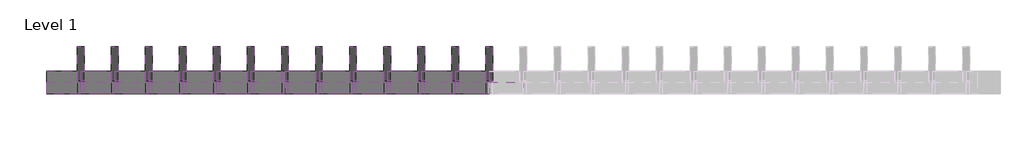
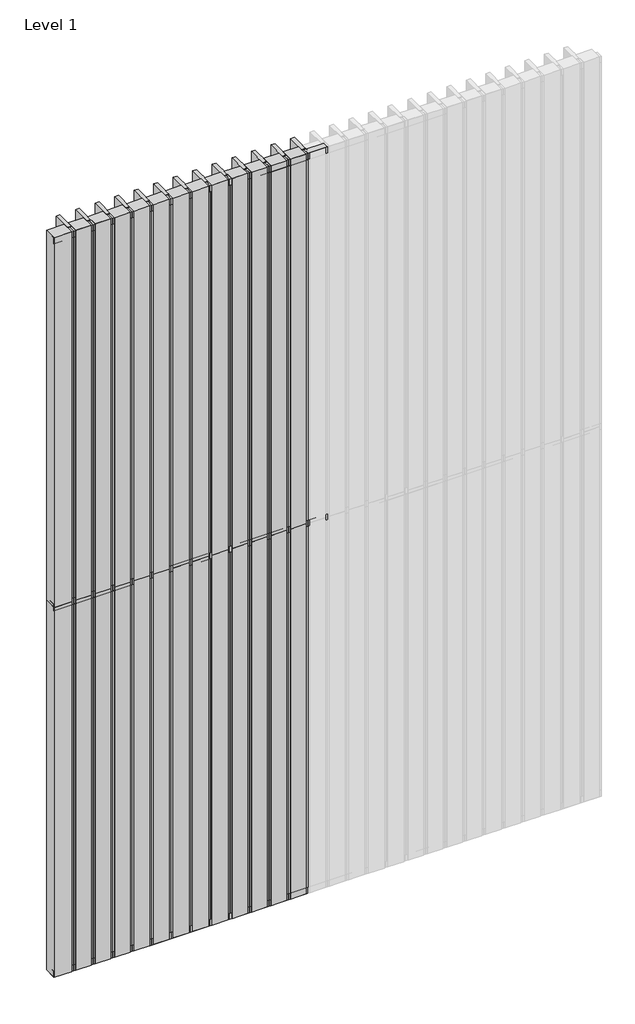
# One storey, part 1 of 3: 67 members, 52 plates.
"""IFC4 building model written with IfcOpenShell, lengths in millimetres."""

from ifc_helpers import new_model, si_unit, origin, place, context, project, spatial, transform, mapped, element, save
from components import rectangular_mullion_4e9be6f4, rectangular_mullion_6265e8b1, rectangular_mullion_64cc6fdd, rectangular_mullion_eb4a5411, empty_system_panel_empty_a223c933, empty_system_panel_empty_cb8e8c2e, empty_system_panel_empty_64907904

model = new_model("IFC4")

# Units and contexts
model_context = context("Model", 3, world=origin())
ifc_project = project(units=[si_unit("LENGTHUNIT", "METRE", prefix="MILLI")], contexts=[model_context])

# Site, building, storey
site = spatial("IfcSite", under=ifc_project)
building = spatial("IfcBuilding", under=site)
storey = spatial("IfcBuildingStorey", under=building, Name="Level 1", Elevation=0.0)

# Members
placement = place(None, origin())
rectangular_mullion_shape = rectangular_mullion_4e9be6f4(model_context)
element("IfcMember", 1, ObjectType="Rectangular Mullion : RSen_21_CWM_blade - cubic 150 - 0°_gen_duco projects", at=placement, inside=storey, context=model_context, shape_type="MappedRepresentation", body=[
    mapped(rectangular_mullion_shape, transform((1950.0, 3000.0, 0.0), x_axis=(-1.0, 0.0, 0.0), y_axis=(0.0, 1.0, 0.0), z_axis=(0.0, 0.0, -1.0))),
])
element("IfcMember", 2, ObjectType="Rectangular Mullion : RSen_21_CWM_blade - cubic 150 - 0°_gen_duco projects", at=placement, inside=storey, context=model_context, shape_type="MappedRepresentation", body=[
    mapped(rectangular_mullion_shape, transform((1800.0, 3000.0, 0.0), x_axis=(-1.0, 0.0, 0.0), y_axis=(0.0, 1.0, 0.0), z_axis=(0.0, 0.0, -1.0))),
])
element("IfcMember", 3, ObjectType="Rectangular Mullion : RSen_21_CWM_blade - cubic 150 - 0°_gen_duco projects", at=placement, inside=storey, context=model_context, shape_type="MappedRepresentation", body=[
    mapped(rectangular_mullion_shape, transform((1650.0, 3000.0, 0.0), x_axis=(-1.0, 0.0, 0.0), y_axis=(0.0, 1.0, 0.0), z_axis=(0.0, 0.0, -1.0))),
])
element("IfcMember", 4, ObjectType="Rectangular Mullion : RSen_21_CWM_blade - cubic 150 - 0°_gen_duco projects", at=placement, inside=storey, context=model_context, shape_type="MappedRepresentation", body=[
    mapped(rectangular_mullion_shape, transform((1500.0, 3000.0, 0.0), x_axis=(-1.0, 0.0, 0.0), y_axis=(0.0, 1.0, 0.0), z_axis=(0.0, 0.0, -1.0))),
])
element("IfcMember", 5, ObjectType="Rectangular Mullion : RSen_21_CWM_blade - cubic 150 - 0°_gen_duco projects", at=placement, inside=storey, context=model_context, shape_type="MappedRepresentation", body=[
    mapped(rectangular_mullion_shape, transform((1350.0, 3000.0, 0.0), x_axis=(-1.0, 0.0, 0.0), y_axis=(0.0, 1.0, 0.0), z_axis=(0.0, 0.0, -1.0))),
])
element("IfcMember", 6, ObjectType="Rectangular Mullion : RSen_21_CWM_blade - cubic 150 - 0°_gen_duco projects", at=placement, inside=storey, context=model_context, shape_type="MappedRepresentation", body=[
    mapped(rectangular_mullion_shape, transform((1200.0, 3000.0, 0.0), x_axis=(-1.0, 0.0, 0.0), y_axis=(0.0, 1.0, 0.0), z_axis=(0.0, 0.0, -1.0))),
])
element("IfcMember", 7, ObjectType="Rectangular Mullion : RSen_21_CWM_blade - cubic 150 - 0°_gen_duco projects", at=placement, inside=storey, context=model_context, shape_type="MappedRepresentation", body=[
    mapped(rectangular_mullion_shape, transform((1050.0, 3000.0, 0.0), x_axis=(-1.0, 0.0, 0.0), y_axis=(0.0, 1.0, 0.0), z_axis=(0.0, 0.0, -1.0))),
])
element("IfcMember", 8, ObjectType="Rectangular Mullion : RSen_21_CWM_blade - cubic 150 - 0°_gen_duco projects", at=placement, inside=storey, context=model_context, shape_type="MappedRepresentation", body=[
    mapped(rectangular_mullion_shape, transform((900.0, 3000.0, 0.0), x_axis=(-1.0, 0.0, 0.0), y_axis=(0.0, 1.0, 0.0), z_axis=(0.0, 0.0, -1.0))),
])
element("IfcMember", 9, ObjectType="Rectangular Mullion : RSen_21_CWM_blade - cubic 150 - 0°_gen_duco projects", at=placement, inside=storey, context=model_context, shape_type="MappedRepresentation", body=[
    mapped(rectangular_mullion_shape, transform((750.0, 3000.0, 0.0), x_axis=(-1.0, 0.0, 0.0), y_axis=(0.0, 1.0, 0.0), z_axis=(0.0, 0.0, -1.0))),
])
element("IfcMember", 10, ObjectType="Rectangular Mullion : RSen_21_CWM_blade - cubic 150 - 0°_gen_duco projects", at=placement, inside=storey, context=model_context, shape_type="MappedRepresentation", body=[
    mapped(rectangular_mullion_shape, transform((600.0, 3000.0, 0.0), x_axis=(-1.0, 0.0, 0.0), y_axis=(0.0, 1.0, 0.0), z_axis=(0.0, 0.0, -1.0))),
])
element("IfcMember", 11, ObjectType="Rectangular Mullion : RSen_21_CWM_blade - cubic 150 - 0°_gen_duco projects", at=placement, inside=storey, context=model_context, shape_type="MappedRepresentation", body=[
    mapped(rectangular_mullion_shape, transform((450.0, 3000.0, 0.0), x_axis=(-1.0, 0.0, 0.0), y_axis=(0.0, 1.0, 0.0), z_axis=(0.0, 0.0, -1.0))),
])
element("IfcMember", 12, ObjectType="Rectangular Mullion : RSen_21_CWM_blade - cubic 150 - 0°_gen_duco projects", at=placement, inside=storey, context=model_context, shape_type="MappedRepresentation", body=[
    mapped(rectangular_mullion_shape, transform((300.0, 3000.0, 0.0), x_axis=(-1.0, 0.0, 0.0), y_axis=(0.0, 1.0, 0.0), z_axis=(0.0, 0.0, -1.0))),
])
element("IfcMember", 13, ObjectType="Rectangular Mullion : RSen_21_CWM_blade - cubic 150 - 0°_gen_duco projects", at=placement, inside=storey, context=model_context, shape_type="MappedRepresentation", body=[
    mapped(rectangular_mullion_shape, transform((150.0, 3000.0, 0.0), x_axis=(-1.0, 0.0, 0.0), y_axis=(0.0, 1.0, 0.0), z_axis=(0.0, 0.0, -1.0))),
])
element("IfcMember", 14, ObjectType="Rectangular Mullion : RSen_21_CWM_blade - cubic 150 - 0°_gen_duco projects", at=placement, inside=storey, context=model_context, shape_type="MappedRepresentation", body=[
    mapped(rectangular_mullion_shape, transform((1950.0, 3000.0, 3000.0), x_axis=(-1.0, 0.0, 0.0), y_axis=(0.0, 1.0, 0.0), z_axis=(0.0, 0.0, -1.0))),
])
element("IfcMember", 15, ObjectType="Rectangular Mullion : RSen_21_CWM_blade - cubic 150 - 0°_gen_duco projects", at=placement, inside=storey, context=model_context, shape_type="MappedRepresentation", body=[
    mapped(rectangular_mullion_shape, transform((1800.0, 3000.0, 3000.0), x_axis=(-1.0, 0.0, 0.0), y_axis=(0.0, 1.0, 0.0), z_axis=(0.0, 0.0, -1.0))),
])
element("IfcMember", 16, ObjectType="Rectangular Mullion : RSen_21_CWM_blade - cubic 150 - 0°_gen_duco projects", at=placement, inside=storey, context=model_context, shape_type="MappedRepresentation", body=[
    mapped(rectangular_mullion_shape, transform((1650.0, 3000.0, 3000.0), x_axis=(-1.0, 0.0, 0.0), y_axis=(0.0, 1.0, 0.0), z_axis=(0.0, 0.0, -1.0))),
])
element("IfcMember", 17, ObjectType="Rectangular Mullion : RSen_21_CWM_blade - cubic 150 - 0°_gen_duco projects", at=placement, inside=storey, context=model_context, shape_type="MappedRepresentation", body=[
    mapped(rectangular_mullion_shape, transform((1500.0, 3000.0, 3000.0), x_axis=(-1.0, 0.0, 0.0), y_axis=(0.0, 1.0, 0.0), z_axis=(0.0, 0.0, -1.0))),
])
element("IfcMember", 18, ObjectType="Rectangular Mullion : RSen_21_CWM_blade - cubic 150 - 0°_gen_duco projects", at=placement, inside=storey, context=model_context, shape_type="MappedRepresentation", body=[
    mapped(rectangular_mullion_shape, transform((1350.0, 3000.0, 3000.0), x_axis=(-1.0, 0.0, 0.0), y_axis=(0.0, 1.0, 0.0), z_axis=(0.0, 0.0, -1.0))),
])
element("IfcMember", 19, ObjectType="Rectangular Mullion : RSen_21_CWM_blade - cubic 150 - 0°_gen_duco projects", at=placement, inside=storey, context=model_context, shape_type="MappedRepresentation", body=[
    mapped(rectangular_mullion_shape, transform((1200.0, 3000.0, 3000.0), x_axis=(-1.0, 0.0, 0.0), y_axis=(0.0, 1.0, 0.0), z_axis=(0.0, 0.0, -1.0))),
])
element("IfcMember", 20, ObjectType="Rectangular Mullion : RSen_21_CWM_blade - cubic 150 - 0°_gen_duco projects", at=placement, inside=storey, context=model_context, shape_type="MappedRepresentation", body=[
    mapped(rectangular_mullion_shape, transform((1050.0, 3000.0, 3000.0), x_axis=(-1.0, 0.0, 0.0), y_axis=(0.0, 1.0, 0.0), z_axis=(0.0, 0.0, -1.0))),
])
element("IfcMember", 21, ObjectType="Rectangular Mullion : RSen_21_CWM_blade - cubic 150 - 0°_gen_duco projects", at=placement, inside=storey, context=model_context, shape_type="MappedRepresentation", body=[
    mapped(rectangular_mullion_shape, transform((900.0, 3000.0, 3000.0), x_axis=(-1.0, 0.0, 0.0), y_axis=(0.0, 1.0, 0.0), z_axis=(0.0, 0.0, -1.0))),
])
element("IfcMember", 22, ObjectType="Rectangular Mullion : RSen_21_CWM_blade - cubic 150 - 0°_gen_duco projects", at=placement, inside=storey, context=model_context, shape_type="MappedRepresentation", body=[
    mapped(rectangular_mullion_shape, transform((750.0, 3000.0, 3000.0), x_axis=(-1.0, 0.0, 0.0), y_axis=(0.0, 1.0, 0.0), z_axis=(0.0, 0.0, -1.0))),
])
element("IfcMember", 23, ObjectType="Rectangular Mullion : RSen_21_CWM_blade - cubic 150 - 0°_gen_duco projects", at=placement, inside=storey, context=model_context, shape_type="MappedRepresentation", body=[
    mapped(rectangular_mullion_shape, transform((600.0, 3000.0, 3000.0), x_axis=(-1.0, 0.0, 0.0), y_axis=(0.0, 1.0, 0.0), z_axis=(0.0, 0.0, -1.0))),
])
element("IfcMember", 24, ObjectType="Rectangular Mullion : RSen_21_CWM_blade - cubic 150 - 0°_gen_duco projects", at=placement, inside=storey, context=model_context, shape_type="MappedRepresentation", body=[
    mapped(rectangular_mullion_shape, transform((450.0, 3000.0, 3000.0), x_axis=(-1.0, 0.0, 0.0), y_axis=(0.0, 1.0, 0.0), z_axis=(0.0, 0.0, -1.0))),
])
element("IfcMember", 25, ObjectType="Rectangular Mullion : RSen_21_CWM_blade - cubic 150 - 0°_gen_duco projects", at=placement, inside=storey, context=model_context, shape_type="MappedRepresentation", body=[
    mapped(rectangular_mullion_shape, transform((300.0, 3000.0, 3000.0), x_axis=(-1.0, 0.0, 0.0), y_axis=(0.0, 1.0, 0.0), z_axis=(0.0, 0.0, -1.0))),
])
element("IfcMember", 26, ObjectType="Rectangular Mullion : RSen_21_CWM_blade - cubic 150 - 0°_gen_duco projects", at=placement, inside=storey, context=model_context, shape_type="MappedRepresentation", body=[
    mapped(rectangular_mullion_shape, transform((150.0, 3000.0, 3000.0), x_axis=(-1.0, 0.0, 0.0), y_axis=(0.0, 1.0, 0.0), z_axis=(0.0, 0.0, -1.0))),
])
rectangular_mullion_2_shape = rectangular_mullion_6265e8b1(model_context)
element("IfcMember", 27, ObjectType="Rectangular Mullion : RSen_21_CWM_support profile 50x50 - left_gen_duco projects", at=placement, inside=storey, context=model_context, shape_type="MappedRepresentation", body=[
    mapped(rectangular_mullion_2_shape, transform((0.0, 3000.0, 6000.0), x_axis=(0.0, 0.0, 1.0), y_axis=(0.0, 1.0, 0.0), z_axis=(-1.0, 0.0, 0.0))),
])
element("IfcMember", 28, ObjectType="Rectangular Mullion : RSen_21_CWM_support profile 50x50 - left_gen_duco projects", at=placement, inside=storey, context=model_context, shape_type="MappedRepresentation", body=[
    mapped(rectangular_mullion_2_shape, transform((1950.0, 3000.0, 6000.0), x_axis=(0.0, 0.0, 1.0), y_axis=(0.0, 1.0, 0.0), z_axis=(-1.0, 0.0, 0.0))),
])
element("IfcMember", 29, ObjectType="Rectangular Mullion : RSen_21_CWM_support profile 50x50 - left_gen_duco projects", at=placement, inside=storey, context=model_context, shape_type="MappedRepresentation", body=[
    mapped(rectangular_mullion_2_shape, transform((1800.0, 3000.0, 6000.0), x_axis=(0.0, 0.0, 1.0), y_axis=(0.0, 1.0, 0.0), z_axis=(-1.0, 0.0, 0.0))),
])
element("IfcMember", 30, ObjectType="Rectangular Mullion : RSen_21_CWM_support profile 50x50 - left_gen_duco projects", at=placement, inside=storey, context=model_context, shape_type="MappedRepresentation", body=[
    mapped(rectangular_mullion_2_shape, transform((1650.0, 3000.0, 6000.0), x_axis=(0.0, 0.0, 1.0), y_axis=(0.0, 1.0, 0.0), z_axis=(-1.0, 0.0, 0.0))),
])
element("IfcMember", 31, ObjectType="Rectangular Mullion : RSen_21_CWM_support profile 50x50 - left_gen_duco projects", at=placement, inside=storey, context=model_context, shape_type="MappedRepresentation", body=[
    mapped(rectangular_mullion_2_shape, transform((1500.0, 3000.0, 6000.0), x_axis=(0.0, 0.0, 1.0), y_axis=(0.0, 1.0, 0.0), z_axis=(-1.0, 0.0, 0.0))),
])
element("IfcMember", 32, ObjectType="Rectangular Mullion : RSen_21_CWM_support profile 50x50 - left_gen_duco projects", at=placement, inside=storey, context=model_context, shape_type="MappedRepresentation", body=[
    mapped(rectangular_mullion_2_shape, transform((1350.0, 3000.0, 6000.0), x_axis=(0.0, 0.0, 1.0), y_axis=(0.0, 1.0, 0.0), z_axis=(-1.0, 0.0, 0.0))),
])
element("IfcMember", 33, ObjectType="Rectangular Mullion : RSen_21_CWM_support profile 50x50 - left_gen_duco projects", at=placement, inside=storey, context=model_context, shape_type="MappedRepresentation", body=[
    mapped(rectangular_mullion_2_shape, transform((1200.0, 3000.0, 6000.0), x_axis=(0.0, 0.0, 1.0), y_axis=(0.0, 1.0, 0.0), z_axis=(-1.0, 0.0, 0.0))),
])
element("IfcMember", 34, ObjectType="Rectangular Mullion : RSen_21_CWM_support profile 50x50 - left_gen_duco projects", at=placement, inside=storey, context=model_context, shape_type="MappedRepresentation", body=[
    mapped(rectangular_mullion_2_shape, transform((1050.0, 3000.0, 6000.0), x_axis=(0.0, 0.0, 1.0), y_axis=(0.0, 1.0, 0.0), z_axis=(-1.0, 0.0, 0.0))),
])
element("IfcMember", 35, ObjectType="Rectangular Mullion : RSen_21_CWM_support profile 50x50 - left_gen_duco projects", at=placement, inside=storey, context=model_context, shape_type="MappedRepresentation", body=[
    mapped(rectangular_mullion_2_shape, transform((900.0, 3000.0, 6000.0), x_axis=(0.0, 0.0, 1.0), y_axis=(0.0, 1.0, 0.0), z_axis=(-1.0, 0.0, 0.0))),
])
element("IfcMember", 36, ObjectType="Rectangular Mullion : RSen_21_CWM_support profile 50x50 - left_gen_duco projects", at=placement, inside=storey, context=model_context, shape_type="MappedRepresentation", body=[
    mapped(rectangular_mullion_2_shape, transform((750.0, 3000.0, 6000.0), x_axis=(0.0, 0.0, 1.0), y_axis=(0.0, 1.0, 0.0), z_axis=(-1.0, 0.0, 0.0))),
])
element("IfcMember", 37, ObjectType="Rectangular Mullion : RSen_21_CWM_support profile 50x50 - left_gen_duco projects", at=placement, inside=storey, context=model_context, shape_type="MappedRepresentation", body=[
    mapped(rectangular_mullion_2_shape, transform((600.0, 3000.0, 6000.0), x_axis=(0.0, 0.0, 1.0), y_axis=(0.0, 1.0, 0.0), z_axis=(-1.0, 0.0, 0.0))),
])
element("IfcMember", 38, ObjectType="Rectangular Mullion : RSen_21_CWM_support profile 50x50 - left_gen_duco projects", at=placement, inside=storey, context=model_context, shape_type="MappedRepresentation", body=[
    mapped(rectangular_mullion_2_shape, transform((450.0, 3000.0, 6000.0), x_axis=(0.0, 0.0, 1.0), y_axis=(0.0, 1.0, 0.0), z_axis=(-1.0, 0.0, 0.0))),
])
element("IfcMember", 39, ObjectType="Rectangular Mullion : RSen_21_CWM_support profile 50x50 - left_gen_duco projects", at=placement, inside=storey, context=model_context, shape_type="MappedRepresentation", body=[
    mapped(rectangular_mullion_2_shape, transform((300.0, 3000.0, 6000.0), x_axis=(0.0, 0.0, 1.0), y_axis=(0.0, 1.0, 0.0), z_axis=(-1.0, 0.0, 0.0))),
])
element("IfcMember", 40, ObjectType="Rectangular Mullion : RSen_21_CWM_support profile 50x50 - left_gen_duco projects", at=placement, inside=storey, context=model_context, shape_type="MappedRepresentation", body=[
    mapped(rectangular_mullion_2_shape, transform((150.0, 3000.0, 6000.0), x_axis=(0.0, 0.0, 1.0), y_axis=(0.0, 1.0, 0.0), z_axis=(-1.0, 0.0, 0.0))),
])
rectangular_mullion_3_shape = rectangular_mullion_64cc6fdd(model_context)
element("IfcMember", 41, ObjectType="Rectangular Mullion : RSen_21_CWM_support profile 50x50 - right_gen_duco projects", at=placement, inside=storey, context=model_context, shape_type="MappedRepresentation", body=[
    mapped(rectangular_mullion_3_shape, transform((1950.0, 3000.0, 0.0), x_axis=(0.0, 0.0, -1.0), y_axis=(0.0, 1.0, 0.0), z_axis=(1.0, 0.0, 0.0))),
])
element("IfcMember", 42, ObjectType="Rectangular Mullion : RSen_21_CWM_support profile 50x50 - right_gen_duco projects", at=placement, inside=storey, context=model_context, shape_type="MappedRepresentation", body=[
    mapped(rectangular_mullion_3_shape, transform((1800.0, 3000.0, 0.0), x_axis=(0.0, 0.0, -1.0), y_axis=(0.0, 1.0, 0.0), z_axis=(1.0, 0.0, 0.0))),
])
element("IfcMember", 43, ObjectType="Rectangular Mullion : RSen_21_CWM_support profile 50x50 - right_gen_duco projects", at=placement, inside=storey, context=model_context, shape_type="MappedRepresentation", body=[
    mapped(rectangular_mullion_3_shape, transform((1650.0, 3000.0, 0.0), x_axis=(0.0, 0.0, -1.0), y_axis=(0.0, 1.0, 0.0), z_axis=(1.0, 0.0, 0.0))),
])
element("IfcMember", 44, ObjectType="Rectangular Mullion : RSen_21_CWM_support profile 50x50 - right_gen_duco projects", at=placement, inside=storey, context=model_context, shape_type="MappedRepresentation", body=[
    mapped(rectangular_mullion_3_shape, transform((1500.0, 3000.0, 0.0), x_axis=(0.0, 0.0, -1.0), y_axis=(0.0, 1.0, 0.0), z_axis=(1.0, 0.0, 0.0))),
])
element("IfcMember", 45, ObjectType="Rectangular Mullion : RSen_21_CWM_support profile 50x50 - right_gen_duco projects", at=placement, inside=storey, context=model_context, shape_type="MappedRepresentation", body=[
    mapped(rectangular_mullion_3_shape, transform((1350.0, 3000.0, 0.0), x_axis=(0.0, 0.0, -1.0), y_axis=(0.0, 1.0, 0.0), z_axis=(1.0, 0.0, 0.0))),
])
element("IfcMember", 46, ObjectType="Rectangular Mullion : RSen_21_CWM_support profile 50x50 - right_gen_duco projects", at=placement, inside=storey, context=model_context, shape_type="MappedRepresentation", body=[
    mapped(rectangular_mullion_3_shape, transform((1200.0, 3000.0, 0.0), x_axis=(0.0, 0.0, -1.0), y_axis=(0.0, 1.0, 0.0), z_axis=(1.0, 0.0, 0.0))),
])
element("IfcMember", 47, ObjectType="Rectangular Mullion : RSen_21_CWM_support profile 50x50 - right_gen_duco projects", at=placement, inside=storey, context=model_context, shape_type="MappedRepresentation", body=[
    mapped(rectangular_mullion_3_shape, transform((1050.0, 3000.0, 0.0), x_axis=(0.0, 0.0, -1.0), y_axis=(0.0, 1.0, 0.0), z_axis=(1.0, 0.0, 0.0))),
])
element("IfcMember", 48, ObjectType="Rectangular Mullion : RSen_21_CWM_support profile 50x50 - right_gen_duco projects", at=placement, inside=storey, context=model_context, shape_type="MappedRepresentation", body=[
    mapped(rectangular_mullion_3_shape, transform((900.0, 3000.0, 0.0), x_axis=(0.0, 0.0, -1.0), y_axis=(0.0, 1.0, 0.0), z_axis=(1.0, 0.0, 0.0))),
])
element("IfcMember", 49, ObjectType="Rectangular Mullion : RSen_21_CWM_support profile 50x50 - right_gen_duco projects", at=placement, inside=storey, context=model_context, shape_type="MappedRepresentation", body=[
    mapped(rectangular_mullion_3_shape, transform((750.0, 3000.0, 0.0), x_axis=(0.0, 0.0, -1.0), y_axis=(0.0, 1.0, 0.0), z_axis=(1.0, 0.0, 0.0))),
])
element("IfcMember", 50, ObjectType="Rectangular Mullion : RSen_21_CWM_support profile 50x50 - right_gen_duco projects", at=placement, inside=storey, context=model_context, shape_type="MappedRepresentation", body=[
    mapped(rectangular_mullion_3_shape, transform((600.0, 3000.0, 0.0), x_axis=(0.0, 0.0, -1.0), y_axis=(0.0, 1.0, 0.0), z_axis=(1.0, 0.0, 0.0))),
])
element("IfcMember", 51, ObjectType="Rectangular Mullion : RSen_21_CWM_support profile 50x50 - right_gen_duco projects", at=placement, inside=storey, context=model_context, shape_type="MappedRepresentation", body=[
    mapped(rectangular_mullion_3_shape, transform((450.0, 3000.0, 0.0), x_axis=(0.0, 0.0, -1.0), y_axis=(0.0, 1.0, 0.0), z_axis=(1.0, 0.0, 0.0))),
])
element("IfcMember", 52, ObjectType="Rectangular Mullion : RSen_21_CWM_support profile 50x50 - right_gen_duco projects", at=placement, inside=storey, context=model_context, shape_type="MappedRepresentation", body=[
    mapped(rectangular_mullion_3_shape, transform((300.0, 3000.0, 0.0), x_axis=(0.0, 0.0, -1.0), y_axis=(0.0, 1.0, 0.0), z_axis=(1.0, 0.0, 0.0))),
])
element("IfcMember", 53, ObjectType="Rectangular Mullion : RSen_21_CWM_support profile 50x50 - right_gen_duco projects", at=placement, inside=storey, context=model_context, shape_type="MappedRepresentation", body=[
    mapped(rectangular_mullion_3_shape, transform((150.0, 3000.0, 0.0), x_axis=(0.0, 0.0, -1.0), y_axis=(0.0, 1.0, 0.0), z_axis=(1.0, 0.0, 0.0))),
])
rectangular_mullion_4_shape = rectangular_mullion_eb4a5411(model_context)
element("IfcMember", 54, ObjectType="Rectangular Mullion : RSen_21_CWM_support profile 50x50_gen_duco projects", at=placement, inside=storey, context=model_context, shape_type="MappedRepresentation", body=[
    mapped(rectangular_mullion_4_shape, transform((1950.0, 3000.0, 3000.0), x_axis=(0.0, 0.0, 1.0), y_axis=(0.0, 1.0, 0.0), z_axis=(-1.0, 0.0, 0.0))),
])
element("IfcMember", 55, ObjectType="Rectangular Mullion : RSen_21_CWM_support profile 50x50_gen_duco projects", at=placement, inside=storey, context=model_context, shape_type="MappedRepresentation", body=[
    mapped(rectangular_mullion_4_shape, transform((1800.0, 3000.0, 3000.0), x_axis=(0.0, 0.0, 1.0), y_axis=(0.0, 1.0, 0.0), z_axis=(-1.0, 0.0, 0.0))),
])
element("IfcMember", 56, ObjectType="Rectangular Mullion : RSen_21_CWM_support profile 50x50_gen_duco projects", at=placement, inside=storey, context=model_context, shape_type="MappedRepresentation", body=[
    mapped(rectangular_mullion_4_shape, transform((1650.0, 3000.0, 3000.0), x_axis=(0.0, 0.0, 1.0), y_axis=(0.0, 1.0, 0.0), z_axis=(-1.0, 0.0, 0.0))),
])
element("IfcMember", 57, ObjectType="Rectangular Mullion : RSen_21_CWM_support profile 50x50_gen_duco projects", at=placement, inside=storey, context=model_context, shape_type="MappedRepresentation", body=[
    mapped(rectangular_mullion_4_shape, transform((1500.0, 3000.0, 3000.0), x_axis=(0.0, 0.0, 1.0), y_axis=(0.0, 1.0, 0.0), z_axis=(-1.0, 0.0, 0.0))),
])
element("IfcMember", 58, ObjectType="Rectangular Mullion : RSen_21_CWM_support profile 50x50_gen_duco projects", at=placement, inside=storey, context=model_context, shape_type="MappedRepresentation", body=[
    mapped(rectangular_mullion_4_shape, transform((1350.0, 3000.0, 3000.0), x_axis=(0.0, 0.0, 1.0), y_axis=(0.0, 1.0, 0.0), z_axis=(-1.0, 0.0, 0.0))),
])
element("IfcMember", 59, ObjectType="Rectangular Mullion : RSen_21_CWM_support profile 50x50_gen_duco projects", at=placement, inside=storey, context=model_context, shape_type="MappedRepresentation", body=[
    mapped(rectangular_mullion_4_shape, transform((1200.0, 3000.0, 3000.0), x_axis=(0.0, 0.0, 1.0), y_axis=(0.0, 1.0, 0.0), z_axis=(-1.0, 0.0, 0.0))),
])
element("IfcMember", 60, ObjectType="Rectangular Mullion : RSen_21_CWM_support profile 50x50_gen_duco projects", at=placement, inside=storey, context=model_context, shape_type="MappedRepresentation", body=[
    mapped(rectangular_mullion_4_shape, transform((1050.0, 3000.0, 3000.0), x_axis=(0.0, 0.0, 1.0), y_axis=(0.0, 1.0, 0.0), z_axis=(-1.0, 0.0, 0.0))),
])
element("IfcMember", 61, ObjectType="Rectangular Mullion : RSen_21_CWM_support profile 50x50_gen_duco projects", at=placement, inside=storey, context=model_context, shape_type="MappedRepresentation", body=[
    mapped(rectangular_mullion_4_shape, transform((900.0, 3000.0, 3000.0), x_axis=(0.0, 0.0, 1.0), y_axis=(0.0, 1.0, 0.0), z_axis=(-1.0, 0.0, 0.0))),
])
element("IfcMember", 62, ObjectType="Rectangular Mullion : RSen_21_CWM_support profile 50x50_gen_duco projects", at=placement, inside=storey, context=model_context, shape_type="MappedRepresentation", body=[
    mapped(rectangular_mullion_4_shape, transform((750.0, 3000.0, 3000.0), x_axis=(0.0, 0.0, 1.0), y_axis=(0.0, 1.0, 0.0), z_axis=(-1.0, 0.0, 0.0))),
])
element("IfcMember", 63, ObjectType="Rectangular Mullion : RSen_21_CWM_support profile 50x50_gen_duco projects", at=placement, inside=storey, context=model_context, shape_type="MappedRepresentation", body=[
    mapped(rectangular_mullion_4_shape, transform((600.0, 3000.0, 3000.0), x_axis=(0.0, 0.0, 1.0), y_axis=(0.0, 1.0, 0.0), z_axis=(-1.0, 0.0, 0.0))),
])
element("IfcMember", 64, ObjectType="Rectangular Mullion : RSen_21_CWM_support profile 50x50_gen_duco projects", at=placement, inside=storey, context=model_context, shape_type="MappedRepresentation", body=[
    mapped(rectangular_mullion_4_shape, transform((450.0, 3000.0, 3000.0), x_axis=(0.0, 0.0, 1.0), y_axis=(0.0, 1.0, 0.0), z_axis=(-1.0, 0.0, 0.0))),
])
element("IfcMember", 65, ObjectType="Rectangular Mullion : RSen_21_CWM_support profile 50x50_gen_duco projects", at=placement, inside=storey, context=model_context, shape_type="MappedRepresentation", body=[
    mapped(rectangular_mullion_4_shape, transform((300.0, 3000.0, 3000.0), x_axis=(0.0, 0.0, 1.0), y_axis=(0.0, 1.0, 0.0), z_axis=(-1.0, 0.0, 0.0))),
])
element("IfcMember", 66, ObjectType="Rectangular Mullion : RSen_21_CWM_support profile 50x50_gen_duco projects", at=placement, inside=storey, context=model_context, shape_type="MappedRepresentation", body=[
    mapped(rectangular_mullion_4_shape, transform((150.0, 3000.0, 3000.0), x_axis=(0.0, 0.0, 1.0), y_axis=(0.0, 1.0, 0.0), z_axis=(-1.0, 0.0, 0.0))),
])
element("IfcMember", 67, ObjectType="Rectangular Mullion : RSen_21_CWM_support profile 50x50_gen_duco projects", at=placement, inside=storey, context=model_context, shape_type="MappedRepresentation", body=[
    mapped(rectangular_mullion_4_shape, transform((0.0, 3000.0, 3000.0), x_axis=(0.0, 0.0, 1.0), y_axis=(0.0, 1.0, 0.0), z_axis=(-1.0, 0.0, 0.0))),
])

# Plates
empty_system_panel_empty_shape = empty_system_panel_empty_a223c933(model_context)
element("IfcPlate", 68, ObjectType="Empty System Panel : Empty", at=placement, inside=storey, context=model_context, shape_type="MappedRepresentation", body=[
    mapped(empty_system_panel_empty_shape, transform((67.5, 3000.0, 0.0), x_axis=(-1.0, 0.0, 0.0), y_axis=(0.0, -1.0, 0.0), z_axis=(0.0, 0.0, 1.0))),
])
element("IfcPlate", 69, ObjectType="Empty System Panel : Empty", at=placement, inside=storey, context=model_context, shape_type="MappedRepresentation", body=[
    mapped(empty_system_panel_empty_shape, transform((67.5, 3000.0, 3000.0), x_axis=(-1.0, 0.0, 0.0), y_axis=(0.0, -1.0, 0.0), z_axis=(0.0, 0.0, 1.0))),
])
empty_system_panel_empty_2_shape = empty_system_panel_empty_cb8e8c2e(model_context)
element("IfcPlate", 70, ObjectType="Empty System Panel : Empty", at=placement, inside=storey, context=model_context, shape_type="MappedRepresentation", body=[
    mapped(empty_system_panel_empty_2_shape, transform((1875.0, 3000.0, 0.0), x_axis=(-1.0, 0.0, 0.0), y_axis=(0.0, -1.0, 0.0), z_axis=(0.0, 0.0, 1.0))),
])
element("IfcPlate", 71, ObjectType="Empty System Panel : Empty", at=placement, inside=storey, context=model_context, shape_type="MappedRepresentation", body=[
    mapped(empty_system_panel_empty_2_shape, transform((1725.0, 3000.0, 0.0), x_axis=(-1.0, 0.0, 0.0), y_axis=(0.0, -1.0, 0.0), z_axis=(0.0, 0.0, 1.0))),
])
element("IfcPlate", 72, ObjectType="Empty System Panel : Empty", at=placement, inside=storey, context=model_context, shape_type="MappedRepresentation", body=[
    mapped(empty_system_panel_empty_2_shape, transform((1575.0, 3000.0, 0.0), x_axis=(-1.0, 0.0, 0.0), y_axis=(0.0, -1.0, 0.0), z_axis=(0.0, 0.0, 1.0))),
])
element("IfcPlate", 73, ObjectType="Empty System Panel : Empty", at=placement, inside=storey, context=model_context, shape_type="MappedRepresentation", body=[
    mapped(empty_system_panel_empty_2_shape, transform((1425.0, 3000.0, 0.0), x_axis=(-1.0, 0.0, 0.0), y_axis=(0.0, -1.0, 0.0), z_axis=(0.0, 0.0, 1.0))),
])
element("IfcPlate", 74, ObjectType="Empty System Panel : Empty", at=placement, inside=storey, context=model_context, shape_type="MappedRepresentation", body=[
    mapped(empty_system_panel_empty_2_shape, transform((1275.0, 3000.0, 0.0), x_axis=(-1.0, 0.0, 0.0), y_axis=(0.0, -1.0, 0.0), z_axis=(0.0, 0.0, 1.0))),
])
element("IfcPlate", 75, ObjectType="Empty System Panel : Empty", at=placement, inside=storey, context=model_context, shape_type="MappedRepresentation", body=[
    mapped(empty_system_panel_empty_2_shape, transform((1125.0, 3000.0, 0.0), x_axis=(-1.0, 0.0, 0.0), y_axis=(0.0, -1.0, 0.0), z_axis=(0.0, 0.0, 1.0))),
])
element("IfcPlate", 76, ObjectType="Empty System Panel : Empty", at=placement, inside=storey, context=model_context, shape_type="MappedRepresentation", body=[
    mapped(empty_system_panel_empty_2_shape, transform((975.0, 3000.0, 0.0), x_axis=(-1.0, 0.0, 0.0), y_axis=(0.0, -1.0, 0.0), z_axis=(0.0, 0.0, 1.0))),
])
element("IfcPlate", 77, ObjectType="Empty System Panel : Empty", at=placement, inside=storey, context=model_context, shape_type="MappedRepresentation", body=[
    mapped(empty_system_panel_empty_2_shape, transform((825.0, 3000.0, 0.0), x_axis=(-1.0, 0.0, 0.0), y_axis=(0.0, -1.0, 0.0), z_axis=(0.0, 0.0, 1.0))),
])
element("IfcPlate", 78, ObjectType="Empty System Panel : Empty", at=placement, inside=storey, context=model_context, shape_type="MappedRepresentation", body=[
    mapped(empty_system_panel_empty_2_shape, transform((675.0, 3000.0, 0.0), x_axis=(-1.0, 0.0, 0.0), y_axis=(0.0, -1.0, 0.0), z_axis=(0.0, 0.0, 1.0))),
])
element("IfcPlate", 79, ObjectType="Empty System Panel : Empty", at=placement, inside=storey, context=model_context, shape_type="MappedRepresentation", body=[
    mapped(empty_system_panel_empty_2_shape, transform((525.0, 3000.0, 0.0), x_axis=(-1.0, 0.0, 0.0), y_axis=(0.0, -1.0, 0.0), z_axis=(0.0, 0.0, 1.0))),
])
element("IfcPlate", 80, ObjectType="Empty System Panel : Empty", at=placement, inside=storey, context=model_context, shape_type="MappedRepresentation", body=[
    mapped(empty_system_panel_empty_2_shape, transform((375.0, 3000.0, 0.0), x_axis=(-1.0, 0.0, 0.0), y_axis=(0.0, -1.0, 0.0), z_axis=(0.0, 0.0, 1.0))),
])
element("IfcPlate", 81, ObjectType="Empty System Panel : Empty", at=placement, inside=storey, context=model_context, shape_type="MappedRepresentation", body=[
    mapped(empty_system_panel_empty_2_shape, transform((225.0, 3000.0, 0.0), x_axis=(-1.0, 0.0, 0.0), y_axis=(0.0, -1.0, 0.0), z_axis=(0.0, 0.0, 1.0))),
])
element("IfcPlate", 82, ObjectType="Empty System Panel : Empty", at=placement, inside=storey, context=model_context, shape_type="MappedRepresentation", body=[
    mapped(empty_system_panel_empty_2_shape, transform((1875.0, 3000.0, 3000.0), x_axis=(-1.0, 0.0, 0.0), y_axis=(0.0, -1.0, 0.0), z_axis=(0.0, 0.0, 1.0))),
])
element("IfcPlate", 83, ObjectType="Empty System Panel : Empty", at=placement, inside=storey, context=model_context, shape_type="MappedRepresentation", body=[
    mapped(empty_system_panel_empty_2_shape, transform((1725.0, 3000.0, 3000.0), x_axis=(-1.0, 0.0, 0.0), y_axis=(0.0, -1.0, 0.0), z_axis=(0.0, 0.0, 1.0))),
])
element("IfcPlate", 84, ObjectType="Empty System Panel : Empty", at=placement, inside=storey, context=model_context, shape_type="MappedRepresentation", body=[
    mapped(empty_system_panel_empty_2_shape, transform((1575.0, 3000.0, 3000.0), x_axis=(-1.0, 0.0, 0.0), y_axis=(0.0, -1.0, 0.0), z_axis=(0.0, 0.0, 1.0))),
])
element("IfcPlate", 85, ObjectType="Empty System Panel : Empty", at=placement, inside=storey, context=model_context, shape_type="MappedRepresentation", body=[
    mapped(empty_system_panel_empty_2_shape, transform((1425.0, 3000.0, 3000.0), x_axis=(-1.0, 0.0, 0.0), y_axis=(0.0, -1.0, 0.0), z_axis=(0.0, 0.0, 1.0))),
])
element("IfcPlate", 86, ObjectType="Empty System Panel : Empty", at=placement, inside=storey, context=model_context, shape_type="MappedRepresentation", body=[
    mapped(empty_system_panel_empty_2_shape, transform((1275.0, 3000.0, 3000.0), x_axis=(-1.0, 0.0, 0.0), y_axis=(0.0, -1.0, 0.0), z_axis=(0.0, 0.0, 1.0))),
])
element("IfcPlate", 87, ObjectType="Empty System Panel : Empty", at=placement, inside=storey, context=model_context, shape_type="MappedRepresentation", body=[
    mapped(empty_system_panel_empty_2_shape, transform((1125.0, 3000.0, 3000.0), x_axis=(-1.0, 0.0, 0.0), y_axis=(0.0, -1.0, 0.0), z_axis=(0.0, 0.0, 1.0))),
])
element("IfcPlate", 88, ObjectType="Empty System Panel : Empty", at=placement, inside=storey, context=model_context, shape_type="MappedRepresentation", body=[
    mapped(empty_system_panel_empty_2_shape, transform((975.0, 3000.0, 3000.0), x_axis=(-1.0, 0.0, 0.0), y_axis=(0.0, -1.0, 0.0), z_axis=(0.0, 0.0, 1.0))),
])
element("IfcPlate", 89, ObjectType="Empty System Panel : Empty", at=placement, inside=storey, context=model_context, shape_type="MappedRepresentation", body=[
    mapped(empty_system_panel_empty_2_shape, transform((825.0, 3000.0, 3000.0), x_axis=(-1.0, 0.0, 0.0), y_axis=(0.0, -1.0, 0.0), z_axis=(0.0, 0.0, 1.0))),
])
element("IfcPlate", 90, ObjectType="Empty System Panel : Empty", at=placement, inside=storey, context=model_context, shape_type="MappedRepresentation", body=[
    mapped(empty_system_panel_empty_2_shape, transform((675.0, 3000.0, 3000.0), x_axis=(-1.0, 0.0, 0.0), y_axis=(0.0, -1.0, 0.0), z_axis=(0.0, 0.0, 1.0))),
])
element("IfcPlate", 91, ObjectType="Empty System Panel : Empty", at=placement, inside=storey, context=model_context, shape_type="MappedRepresentation", body=[
    mapped(empty_system_panel_empty_2_shape, transform((525.0, 3000.0, 3000.0), x_axis=(-1.0, 0.0, 0.0), y_axis=(0.0, -1.0, 0.0), z_axis=(0.0, 0.0, 1.0))),
])
element("IfcPlate", 92, ObjectType="Empty System Panel : Empty", at=placement, inside=storey, context=model_context, shape_type="MappedRepresentation", body=[
    mapped(empty_system_panel_empty_2_shape, transform((375.0, 3000.0, 3000.0), x_axis=(-1.0, 0.0, 0.0), y_axis=(0.0, -1.0, 0.0), z_axis=(0.0, 0.0, 1.0))),
])
element("IfcPlate", 93, ObjectType="Empty System Panel : Empty", at=placement, inside=storey, context=model_context, shape_type="MappedRepresentation", body=[
    mapped(empty_system_panel_empty_2_shape, transform((225.0, 3000.0, 3000.0), x_axis=(-1.0, 0.0, 0.0), y_axis=(0.0, -1.0, 0.0), z_axis=(0.0, 0.0, 1.0))),
])
empty_system_panel_empty_3_shape = empty_system_panel_empty_64907904(model_context)
element("IfcPlate", 94, ObjectType="Empty System Panel : Empty", at=placement, inside=storey, context=model_context, shape_type="MappedRepresentation", body=[
    mapped(empty_system_panel_empty_3_shape, transform((1875.0, 3000.0, 50.0), x_axis=(-1.0, 0.0, 0.0), y_axis=(0.0, -1.0, 0.0), z_axis=(0.0, 0.0, 1.0))),
])
element("IfcPlate", 95, ObjectType="Empty System Panel : Empty", at=placement, inside=storey, context=model_context, shape_type="MappedRepresentation", body=[
    mapped(empty_system_panel_empty_3_shape, transform((1725.0, 3000.0, 50.0), x_axis=(-1.0, 0.0, 0.0), y_axis=(0.0, -1.0, 0.0), z_axis=(0.0, 0.0, 1.0))),
])
element("IfcPlate", 96, ObjectType="Empty System Panel : Empty", at=placement, inside=storey, context=model_context, shape_type="MappedRepresentation", body=[
    mapped(empty_system_panel_empty_3_shape, transform((1575.0, 3000.0, 50.0), x_axis=(-1.0, 0.0, 0.0), y_axis=(0.0, -1.0, 0.0), z_axis=(0.0, 0.0, 1.0))),
])
element("IfcPlate", 97, ObjectType="Empty System Panel : Empty", at=placement, inside=storey, context=model_context, shape_type="MappedRepresentation", body=[
    mapped(empty_system_panel_empty_3_shape, transform((1425.0, 3000.0, 50.0), x_axis=(-1.0, 0.0, 0.0), y_axis=(0.0, -1.0, 0.0), z_axis=(0.0, 0.0, 1.0))),
])
element("IfcPlate", 98, ObjectType="Empty System Panel : Empty", at=placement, inside=storey, context=model_context, shape_type="MappedRepresentation", body=[
    mapped(empty_system_panel_empty_3_shape, transform((1275.0, 3000.0, 50.0), x_axis=(-1.0, 0.0, 0.0), y_axis=(0.0, -1.0, 0.0), z_axis=(0.0, 0.0, 1.0))),
])
element("IfcPlate", 99, ObjectType="Empty System Panel : Empty", at=placement, inside=storey, context=model_context, shape_type="MappedRepresentation", body=[
    mapped(empty_system_panel_empty_3_shape, transform((1125.0, 3000.0, 50.0), x_axis=(-1.0, 0.0, 0.0), y_axis=(0.0, -1.0, 0.0), z_axis=(0.0, 0.0, 1.0))),
])
element("IfcPlate", 100, ObjectType="Empty System Panel : Empty", at=placement, inside=storey, context=model_context, shape_type="MappedRepresentation", body=[
    mapped(empty_system_panel_empty_3_shape, transform((975.0, 3000.0, 50.0), x_axis=(-1.0, 0.0, 0.0), y_axis=(0.0, -1.0, 0.0), z_axis=(0.0, 0.0, 1.0))),
])
element("IfcPlate", 101, ObjectType="Empty System Panel : Empty", at=placement, inside=storey, context=model_context, shape_type="MappedRepresentation", body=[
    mapped(empty_system_panel_empty_3_shape, transform((825.0, 3000.0, 50.0), x_axis=(-1.0, 0.0, 0.0), y_axis=(0.0, -1.0, 0.0), z_axis=(0.0, 0.0, 1.0))),
])
element("IfcPlate", 102, ObjectType="Empty System Panel : Empty", at=placement, inside=storey, context=model_context, shape_type="MappedRepresentation", body=[
    mapped(empty_system_panel_empty_3_shape, transform((675.0, 3000.0, 50.0), x_axis=(-1.0, 0.0, 0.0), y_axis=(0.0, -1.0, 0.0), z_axis=(0.0, 0.0, 1.0))),
])
element("IfcPlate", 103, ObjectType="Empty System Panel : Empty", at=placement, inside=storey, context=model_context, shape_type="MappedRepresentation", body=[
    mapped(empty_system_panel_empty_3_shape, transform((525.0, 3000.0, 50.0), x_axis=(-1.0, 0.0, 0.0), y_axis=(0.0, -1.0, 0.0), z_axis=(0.0, 0.0, 1.0))),
])
element("IfcPlate", 104, ObjectType="Empty System Panel : Empty", at=placement, inside=storey, context=model_context, shape_type="MappedRepresentation", body=[
    mapped(empty_system_panel_empty_3_shape, transform((375.0, 3000.0, 50.0), x_axis=(-1.0, 0.0, 0.0), y_axis=(0.0, -1.0, 0.0), z_axis=(0.0, 0.0, 1.0))),
])
element("IfcPlate", 105, ObjectType="Empty System Panel : Empty", at=placement, inside=storey, context=model_context, shape_type="MappedRepresentation", body=[
    mapped(empty_system_panel_empty_3_shape, transform((225.0, 3000.0, 50.0), x_axis=(-1.0, 0.0, 0.0), y_axis=(0.0, -1.0, 0.0), z_axis=(0.0, 0.0, 1.0))),
])
element("IfcPlate", 106, ObjectType="Empty System Panel : Empty", at=placement, inside=storey, context=model_context, shape_type="MappedRepresentation", body=[
    mapped(empty_system_panel_empty_3_shape, transform((75.0, 3000.0, 50.0), x_axis=(-1.0, 0.0, 0.0), y_axis=(0.0, -1.0, 0.0), z_axis=(0.0, 0.0, 1.0))),
])
element("IfcPlate", 107, ObjectType="Empty System Panel : Empty", at=placement, inside=storey, context=model_context, shape_type="MappedRepresentation", body=[
    mapped(empty_system_panel_empty_3_shape, transform((1875.0, 3000.0, 3025.0), x_axis=(-1.0, 0.0, 0.0), y_axis=(0.0, -1.0, 0.0), z_axis=(0.0, 0.0, 1.0))),
])
element("IfcPlate", 108, ObjectType="Empty System Panel : Empty", at=placement, inside=storey, context=model_context, shape_type="MappedRepresentation", body=[
    mapped(empty_system_panel_empty_3_shape, transform((1725.0, 3000.0, 3025.0), x_axis=(-1.0, 0.0, 0.0), y_axis=(0.0, -1.0, 0.0), z_axis=(0.0, 0.0, 1.0))),
])
element("IfcPlate", 109, ObjectType="Empty System Panel : Empty", at=placement, inside=storey, context=model_context, shape_type="MappedRepresentation", body=[
    mapped(empty_system_panel_empty_3_shape, transform((1575.0, 3000.0, 3025.0), x_axis=(-1.0, 0.0, 0.0), y_axis=(0.0, -1.0, 0.0), z_axis=(0.0, 0.0, 1.0))),
])
element("IfcPlate", 110, ObjectType="Empty System Panel : Empty", at=placement, inside=storey, context=model_context, shape_type="MappedRepresentation", body=[
    mapped(empty_system_panel_empty_3_shape, transform((1425.0, 3000.0, 3025.0), x_axis=(-1.0, 0.0, 0.0), y_axis=(0.0, -1.0, 0.0), z_axis=(0.0, 0.0, 1.0))),
])
element("IfcPlate", 111, ObjectType="Empty System Panel : Empty", at=placement, inside=storey, context=model_context, shape_type="MappedRepresentation", body=[
    mapped(empty_system_panel_empty_3_shape, transform((1275.0, 3000.0, 3025.0), x_axis=(-1.0, 0.0, 0.0), y_axis=(0.0, -1.0, 0.0), z_axis=(0.0, 0.0, 1.0))),
])
element("IfcPlate", 112, ObjectType="Empty System Panel : Empty", at=placement, inside=storey, context=model_context, shape_type="MappedRepresentation", body=[
    mapped(empty_system_panel_empty_3_shape, transform((1125.0, 3000.0, 3025.0), x_axis=(-1.0, 0.0, 0.0), y_axis=(0.0, -1.0, 0.0), z_axis=(0.0, 0.0, 1.0))),
])
element("IfcPlate", 113, ObjectType="Empty System Panel : Empty", at=placement, inside=storey, context=model_context, shape_type="MappedRepresentation", body=[
    mapped(empty_system_panel_empty_3_shape, transform((975.0, 3000.0, 3025.0), x_axis=(-1.0, 0.0, 0.0), y_axis=(0.0, -1.0, 0.0), z_axis=(0.0, 0.0, 1.0))),
])
element("IfcPlate", 114, ObjectType="Empty System Panel : Empty", at=placement, inside=storey, context=model_context, shape_type="MappedRepresentation", body=[
    mapped(empty_system_panel_empty_3_shape, transform((825.0, 3000.0, 3025.0), x_axis=(-1.0, 0.0, 0.0), y_axis=(0.0, -1.0, 0.0), z_axis=(0.0, 0.0, 1.0))),
])
element("IfcPlate", 115, ObjectType="Empty System Panel : Empty", at=placement, inside=storey, context=model_context, shape_type="MappedRepresentation", body=[
    mapped(empty_system_panel_empty_3_shape, transform((675.0, 3000.0, 3025.0), x_axis=(-1.0, 0.0, 0.0), y_axis=(0.0, -1.0, 0.0), z_axis=(0.0, 0.0, 1.0))),
])
element("IfcPlate", 116, ObjectType="Empty System Panel : Empty", at=placement, inside=storey, context=model_context, shape_type="MappedRepresentation", body=[
    mapped(empty_system_panel_empty_3_shape, transform((525.0, 3000.0, 3025.0), x_axis=(-1.0, 0.0, 0.0), y_axis=(0.0, -1.0, 0.0), z_axis=(0.0, 0.0, 1.0))),
])
element("IfcPlate", 117, ObjectType="Empty System Panel : Empty", at=placement, inside=storey, context=model_context, shape_type="MappedRepresentation", body=[
    mapped(empty_system_panel_empty_3_shape, transform((375.0, 3000.0, 3025.0), x_axis=(-1.0, 0.0, 0.0), y_axis=(0.0, -1.0, 0.0), z_axis=(0.0, 0.0, 1.0))),
])
element("IfcPlate", 118, ObjectType="Empty System Panel : Empty", at=placement, inside=storey, context=model_context, shape_type="MappedRepresentation", body=[
    mapped(empty_system_panel_empty_3_shape, transform((225.0, 3000.0, 3025.0), x_axis=(-1.0, 0.0, 0.0), y_axis=(0.0, -1.0, 0.0), z_axis=(0.0, 0.0, 1.0))),
])
element("IfcPlate", 119, ObjectType="Empty System Panel : Empty", at=placement, inside=storey, context=model_context, shape_type="MappedRepresentation", body=[
    mapped(empty_system_panel_empty_3_shape, transform((75.0, 3000.0, 3025.0), x_axis=(-1.0, 0.0, 0.0), y_axis=(0.0, -1.0, 0.0), z_axis=(0.0, 0.0, 1.0))),
])

save(model, "model.ifc")
